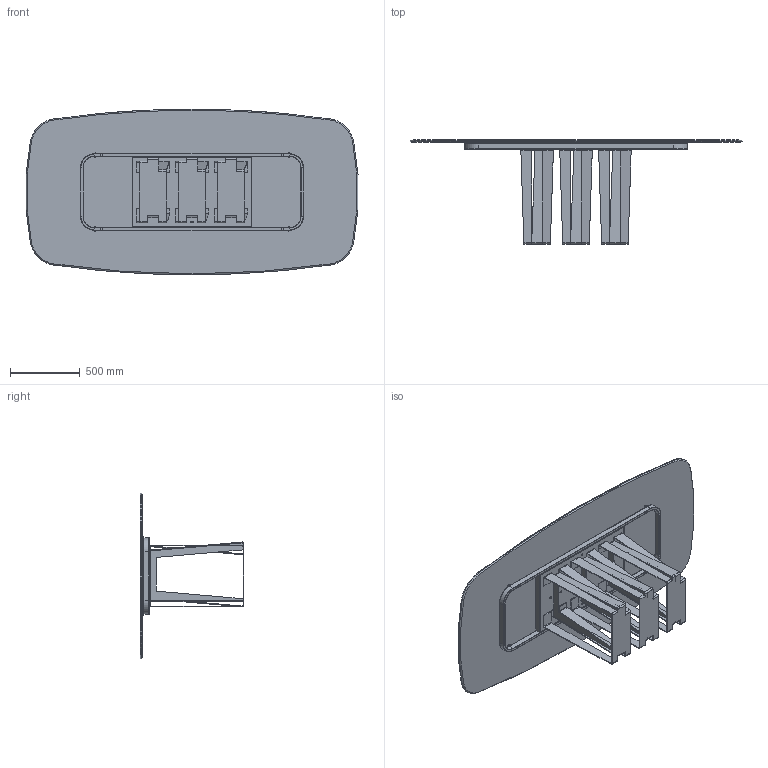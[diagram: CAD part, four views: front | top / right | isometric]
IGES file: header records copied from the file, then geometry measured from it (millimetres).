
Start section: SolidWorks IGES file using analytic representation for surfaces
Global section: file name: Y:\eforma\TECNICO\SOLIDWORKS\E-FORMA\1-TAVOLI\NARCISO\02 parts\NA42C.IGS; native system: SolidWorks 2022; preprocessor: SolidWorks 2022; author: eforma.tech; date: 240807.164318; units: millimetre
Bounding box: 2382.15 x 746 x 1190 mm (x, y, z)
Volume: 53349795.6 mm3; surface area: 15471295.3 mm2
Topology: 31 solids, 31 shells, 1012 faces, 2476 edges, 1520 vertices
Faces by surface type: plane 539, revolution 437, bspline 36
